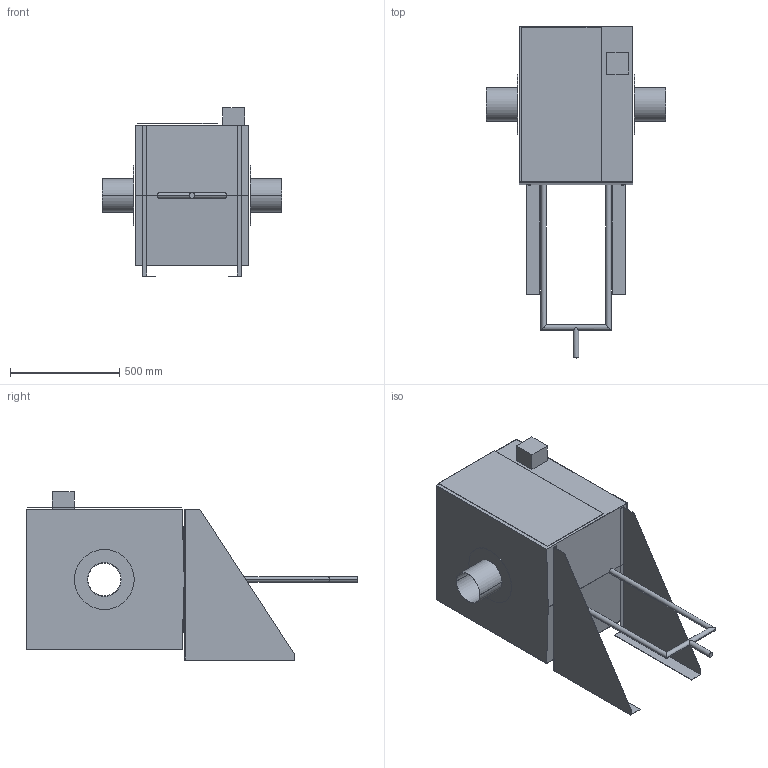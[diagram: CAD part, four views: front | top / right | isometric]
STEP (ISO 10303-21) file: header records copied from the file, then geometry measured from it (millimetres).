
FILE_DESCRIPTION((''),'2;1');
FILE_NAME('51788499','2022-03-28T10:36:16',('hrl'),('HUBER SE'),'CREO PARAMETRIC BY PTC INC, 2021184','CREO PARAMETRIC BY PTC INC, 2021184','');
FILE_SCHEMA(('AUTOMOTIVE_DESIGN { 1 0 10303 214 1 1 1 1 }'));
Length unit declared in the file: millimetre
Products named in the file (1): 51788499
Bounding box: 820 x 1517 x 772 mm (x, y, z)
Volume: 8154955.1 mm3; surface area: 6676487.2 mm2
Topology: 7 solids, 7 shells, 80 faces, 183 edges, 122 vertices
Faces by surface type: plane 56, cylinder 24
Entity records: 3094 total; most frequent: CARTESIAN_POINT 727, DIRECTION 369, ORIENTED_EDGE 366, EDGE_CURVE 183, VECTOR 133, LINE 133, VERTEX_POINT 122, AXIS2_PLACEMENT_3D 118
